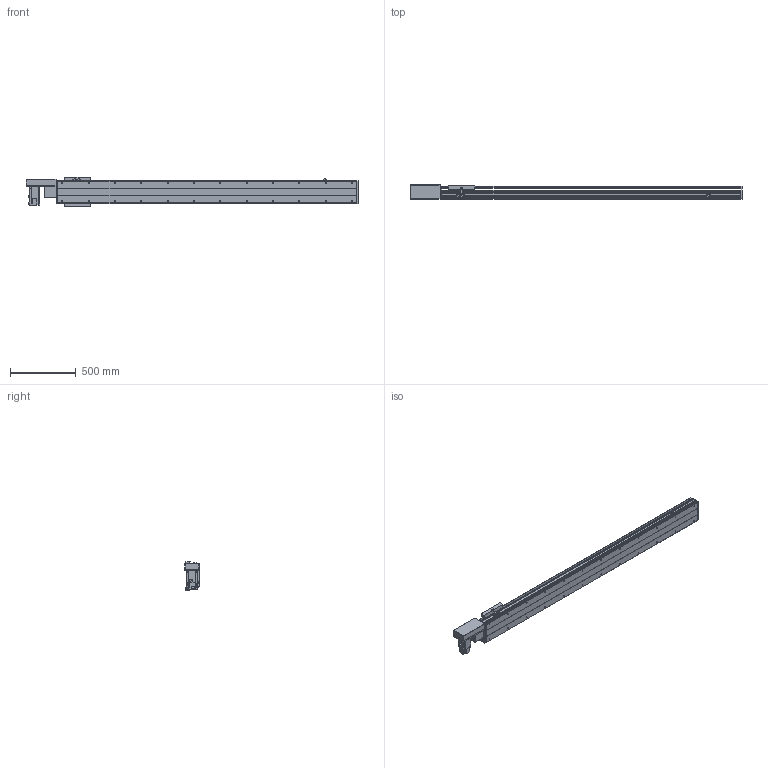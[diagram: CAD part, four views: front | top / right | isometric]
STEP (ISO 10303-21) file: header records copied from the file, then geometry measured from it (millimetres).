
FILE_DESCRIPTION(/* description */ ('STEP AP214'),/* implementation_level */ '2;1');
FILE_NAME(/* name */ 'PBS200-P40-S1900-R-T75-C1-N(0)',/* time_stamp */ '2022-06-11T08:07:43+02:00',/* author */ ('License CC BY-ND 4.0'),/* organization */ ('CADENAS'),/* preprocessor_version */ 'ST-DEVELOPER v18.102',/* originating_system */ 'PARTsolutions',/* authorisation */ ' ');
FILE_SCHEMA (('AUTOMOTIVE_DESIGN {1 0 10303 214 3 1 1}'));
Length unit declared in the file: millimetre
Products named in the file (7): PBS200-P40-S1900-R-T75-C1-N(0); PBS200_sensor; PBS200_plant; PBS200_sliser; T75-p1; PBS200T-R_motors; PBS200-S1900()_body
Assembly tree (8 placements, depth 2):
  PBS200-P40-S1900-R-T75-C1-N(0)
    PBS200_sensor  x3
    PBS200_plant
    PBS200_sliser
    T75-p1
    PBS200T-R_motors
    PBS200-S1900()_body
Bounding box: 2522 x 109 x 221 mm (x, y, z)
Volume: 16857653.3 mm3; surface area: 2705404.2 mm2
Topology: 8 solids, 8 shells, 944 faces, 2414 edges, 1572 vertices
Faces by surface type: plane 582, cylinder 306, cone 56
Full cylindrical faces by diameter (mm): 2.459 x6, 3.242 x4, 4.5 x6, 4.917 x4, 5 x6, 6 x7, 6.6 x8, 6.647 x28, 8 x6, 10 x4, 12 x8, 38 x2, 40 x1, 70 x1
Entity records: 25061 total; most frequent: DIRECTION 4423, CARTESIAN_POINT 4264, ORIENTED_EDGE 4030, EDGE_CURVE 2015, AXIS2_PLACEMENT_3D 1555, VERTEX_POINT 1396, LINE 1313, VECTOR 1313
